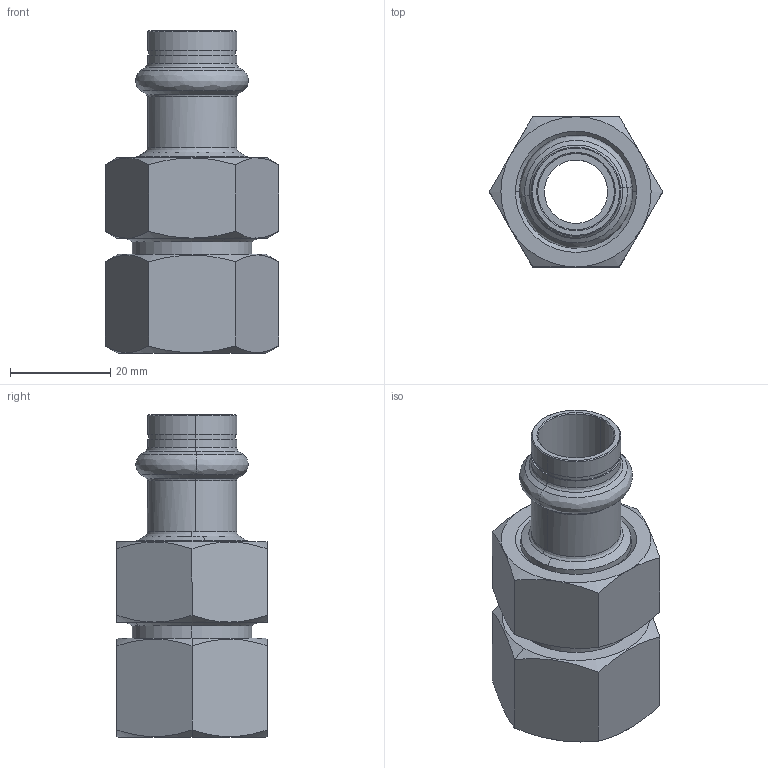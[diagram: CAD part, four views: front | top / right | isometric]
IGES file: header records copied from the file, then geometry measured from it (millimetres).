
Start section: Elysium IGES Interface
Global section: file name: F:\3d modellen sudo\S-Pr VP\SP6330GV\6330GVW1534.igs; native system: CoCreate Modeling 17.00A  17-Jun-2010; preprocessor: CoCreate IGES_3D V2.2; author: Unknown; organization: Unknown; date: 20130129.092515; units: millimetre
Bounding box: 34.64 x 30 x 64.5 mm (x, y, z)
Volume: 17759.2 mm3; surface area: 13696 mm2
Topology: 3 solids, 3 shells, 123 faces, 278 edges, 166 vertices
Faces by surface type: bspline 123
